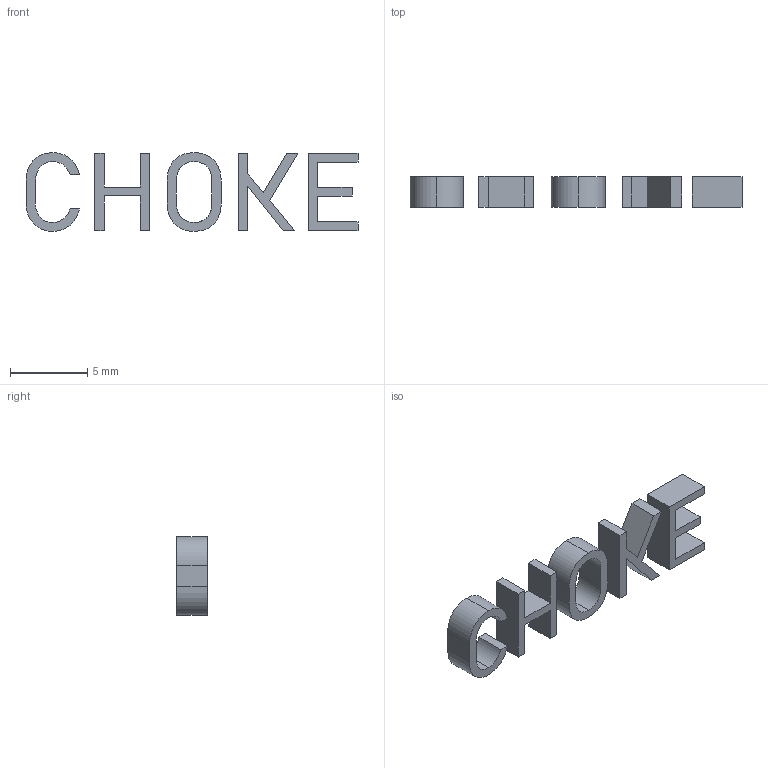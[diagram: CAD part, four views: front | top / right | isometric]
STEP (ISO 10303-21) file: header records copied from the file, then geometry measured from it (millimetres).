
FILE_DESCRIPTION(/* description */ (''),/* implementation_level */ '2;1');
FILE_NAME(/* name */ 'E:\Tomas\Dokument\Inventor\ChokeKnob\ChokeKnobCoverText.stp',/* time_stamp */ '2022-02-21T12:44:43+01:00',/* author */ ('Tomas & Helena'),/* organization */ (''),/* preprocessor_version */ 'ST-DEVELOPER v18.1',/* originating_system */ 'Autodesk Inventor 2021',/* authorisation */ '');
FILE_SCHEMA (('AUTOMOTIVE_DESIGN { 1 0 10303 214 3 1 1 }'));
Length unit declared in the file: millimetre
Products named in the file (1): ChokeKnobCoverText
Bounding box: 21.52 x 2 x 5.1 mm (x, y, z)
Volume: 70.7 mm3; surface area: 320.1 mm2
Topology: 5 solids, 5 shells, 70 faces, 180 edges, 120 vertices
Faces by surface type: plane 54, bspline 16
Entity records: 2373 total; most frequent: CARTESIAN_POINT 643, ORIENTED_EDGE 360, DIRECTION 258, EDGE_CURVE 180, LINE 148, VECTOR 148, VERTEX_POINT 120, STYLED_ITEM 75
